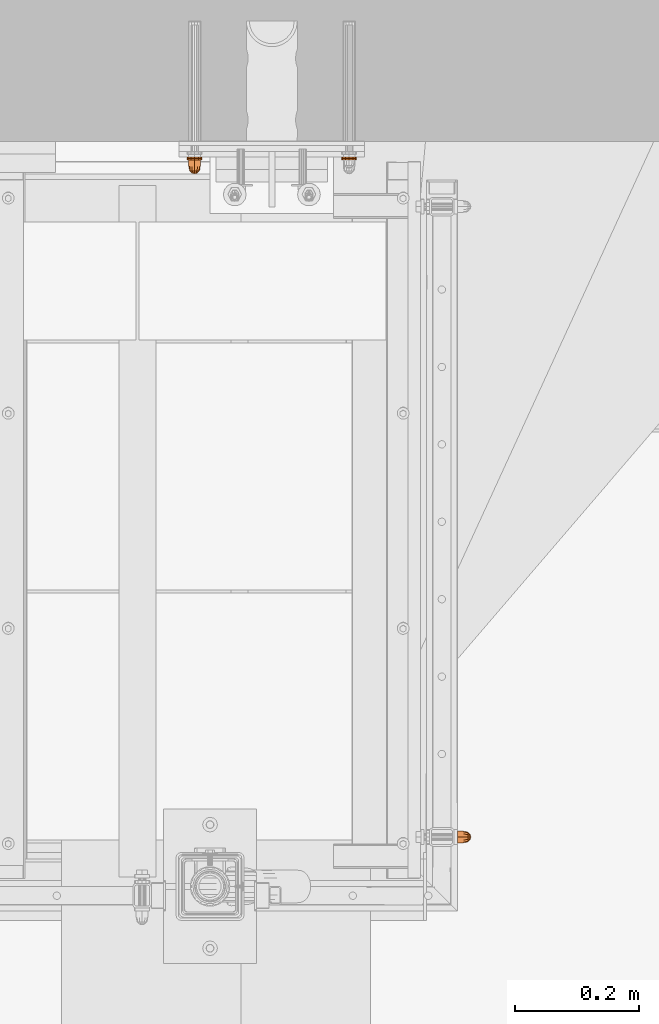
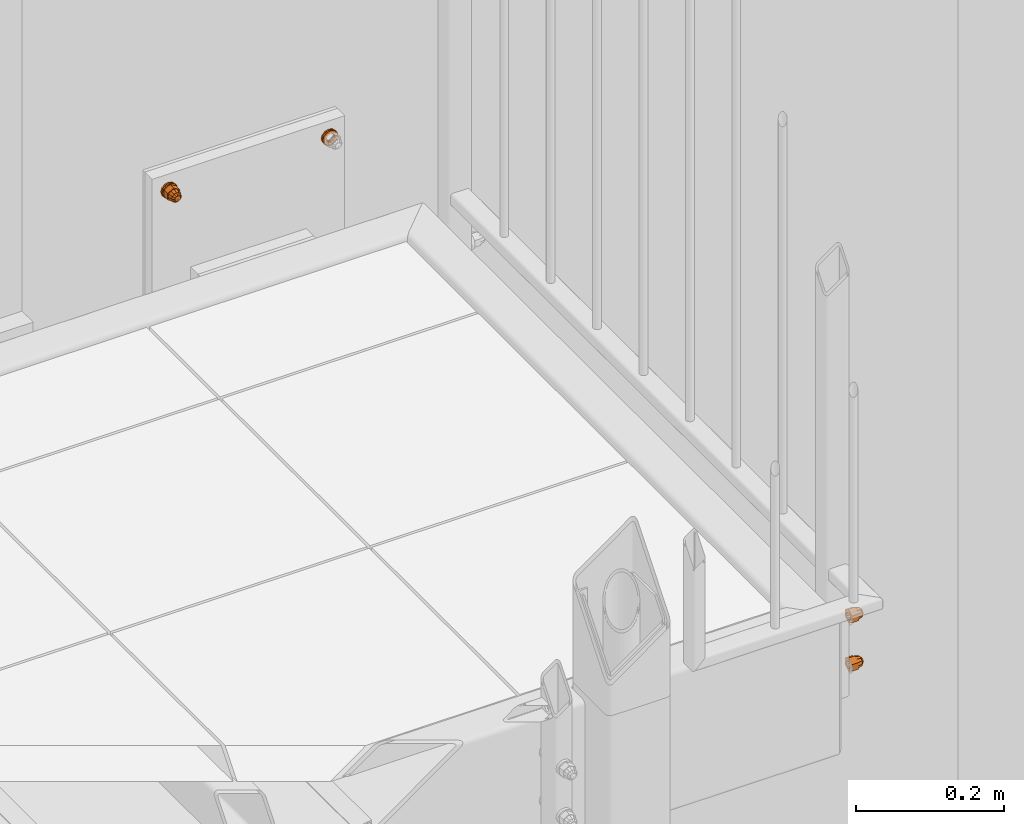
# One storey, part 158 of 162: 7 proxies.
"""IFC2X3 building model written with IfcOpenShell, lengths in millimetres."""

from ifc_helpers import new_model, entity, si_unit, converted_unit, origin_with_axes, place, context, project, spatial, faceted_brep, material, element, save


model = new_model("IFC2X3")

# Units and contexts
model_context = context("Model", 3, precision=1e-09, world=origin_with_axes())
ifc_project = project(units=[si_unit("LENGTHUNIT", "METRE", prefix="MILLI"), si_unit("AREAUNIT", "SQUARE_METRE"), si_unit("VOLUMEUNIT", "CUBIC_METRE"), converted_unit("PLANEANGLEUNIT", "DEGREE", entity("IfcPlaneAngleMeasure", 0.01745329), si_unit("PLANEANGLEUNIT", "RADIAN"), dimensions=[0, 0, 0, 0, 0, 0, 0])], contexts=[model_context])

# Site, building, storey
site_placement = place(None, origin_with_axes())
site = spatial("IfcSite", under=ifc_project, at=site_placement, Name="Hermannstra?e 1a, 60318 Frankfurt", CompositionType="ELEMENT")
building_placement = place(site_placement, origin_with_axes())
building = spatial("IfcBuilding", under=site, at=building_placement, Name="Struktur 1", CompositionType="ELEMENT")
storey_placement = place(building_placement, origin_with_axes())
storey = spatial("IfcBuildingStorey", under=building, at=storey_placement, Name="Default Storey", CompositionType="ELEMENT", Elevation=0.0)

# Proxies
ifc_material_1 = material(Name="Kein")
proxy_1_placement = place(None, origin_with_axes())
element("IfcBuildingElementProxy", 1, at=proxy_1_placement, inside=storey, material=ifc_material_1, ObjectType="-", context=model_context, shape_type="Brep", body=[
    faceted_brep([(5873.30936482, 1604.609373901, 3895.0), (5883.30936482, 1604.609373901, 3895.0), (5883.30936482, 1605.413221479, 3892.0), (5873.30936482, 1605.413221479, 3892.0), (5883.30936482, 1607.609373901, 3889.803847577), (5873.30936482, 1607.609373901, 3889.803847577), (5873.30936482, 1605.413221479, 3898.0), (5883.30936482, 1605.413221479, 3898.0), (5873.30936482, 1601.129504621, 3900.473205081), (5873.30936482, 1610.609373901, 3905.946410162), (5873.30936482, 1620.089243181, 3900.473205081), (5873.30936482, 1620.089243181, 3889.526794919), (5873.30936482, 1610.609373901, 3884.053589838), (5873.30936482, 1601.129504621, 3889.526794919), (5873.30936482, 1607.609373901, 3900.196152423), (5873.30936482, 1610.609373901, 3889.0), (5873.30936482, 1613.609373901, 3889.803847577), (5873.30936482, 1615.805526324, 3892.0), (5873.30936482, 1616.609373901, 3895.0), (5873.30936482, 1615.805526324, 3898.0), (5873.30936482, 1613.609373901, 3900.196152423), (5873.30936482, 1610.609373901, 3901.0), (5883.30936482, 1610.609373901, 3905.946410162), (5883.30936482, 1601.129504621, 3900.473205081), (5883.30936482, 1601.129504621, 3889.526794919), (5883.30936482, 1610.609373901, 3884.053589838), (5883.30936482, 1620.089243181, 3889.526794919), (5883.30936482, 1620.089243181, 3900.473205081), (5883.30936482, 1607.609373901, 3900.196152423), (5883.30936482, 1610.609373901, 3901.0), (5883.30936482, 1613.609373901, 3900.196152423), (5883.30936482, 1615.805526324, 3898.0), (5883.30936482, 1616.609373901, 3895.0), (5883.30936482, 1615.805526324, 3892.0), (5883.30936482, 1613.609373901, 3889.803847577), (5883.30936482, 1610.609373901, 3889.0)], [[[0, 1, 2, 3]], [[3, 2, 4, 5]], [[1, 0, 6, 7]], [[8, 9, 10, 11, 12, 13], [14, 6, 0, 3, 5, 15, 16, 17, 18, 19, 20, 21]], [[22, 23, 24, 25, 26, 27], [1, 7, 28, 29, 30, 31, 32, 33, 34, 35, 4, 2]], [[7, 6, 14, 28]], [[24, 23, 8, 13]], [[5, 4, 35, 15]], [[13, 12, 25, 24]], [[28, 14, 21, 29]], [[23, 22, 9, 8]], [[15, 35, 34, 16]], [[12, 11, 26, 25]], [[29, 21, 20, 30]], [[22, 27, 10, 9]], [[16, 34, 33, 17]], [[27, 26, 11, 10]], [[30, 20, 19, 31]], [[17, 33, 32, 18]], [[31, 19, 18, 32]]]),
    faceted_brep([(5883.30936482, 1610.609373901, 3904.0), (5886.30936482, 1610.609373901, 3904.0), (5886.30936482, 1615.109373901, 3902.794228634), (5883.30936482, 1615.109373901, 3902.794228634), (5883.30936482, 1606.109373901, 3902.794228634), (5886.30936482, 1606.109373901, 3902.794228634), (5886.30936482, 1602.815145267, 3890.5), (5886.30936482, 1606.109373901, 3887.205771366), (5886.30936482, 1610.609373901, 3886.0), (5886.30936482, 1615.109373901, 3887.205771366), (5886.30936482, 1618.403602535, 3890.5), (5886.30936482, 1619.609373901, 3895.0), (5886.30936482, 1618.403602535, 3899.5), (5886.30936482, 1602.815145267, 3899.5), (5886.30936482, 1601.609373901, 3895.0), (5883.30936482, 1618.403602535, 3890.5), (5883.30936482, 1615.109373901, 3887.205771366), (5883.30936482, 1610.609373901, 3886.0), (5883.30936482, 1606.109373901, 3887.205771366), (5883.30936482, 1602.815145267, 3890.5), (5883.30936482, 1601.609373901, 3895.0), (5883.30936482, 1602.815145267, 3899.5), (5883.30936482, 1618.403602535, 3899.5), (5883.30936482, 1619.609373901, 3895.0)], [[[0, 1, 2, 3]], [[1, 0, 4, 5]], [[6, 7, 8, 9, 10, 11, 12, 2, 1, 5, 13, 14]], [[15, 16, 17, 18, 19, 20, 21, 4, 0, 3, 22, 23]], [[3, 2, 12, 22]], [[5, 4, 21, 13]], [[22, 12, 11, 23]], [[13, 21, 20, 14]], [[7, 18, 17, 8]], [[19, 6, 14, 20]], [[18, 7, 6, 19]], [[23, 11, 10, 15]], [[8, 17, 16, 9]], [[15, 10, 9, 16]]]),
    faceted_brep([(5886.30936482, 1602.815145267, 3899.5), (5890.80936482, 1603.859373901, 3898.897114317), (5890.80936482, 1606.712259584, 3901.75), (5886.30936482, 1606.109373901, 3902.794228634), (5886.30936482, 1618.403602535, 3890.5), (5886.30936482, 1615.109373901, 3887.205771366), (5886.30936482, 1610.609373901, 3886.0), (5886.30936482, 1606.109373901, 3887.205771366), (5886.30936482, 1602.815145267, 3890.5), (5886.30936482, 1601.609373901, 3895.0), (5886.30936482, 1610.609373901, 3904.0), (5886.30936482, 1615.109373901, 3902.794228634), (5886.30936482, 1618.403602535, 3899.5), (5886.30936482, 1619.609373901, 3895.0), (5890.80936482, 1610.609373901, 3902.794228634), (5890.80936482, 1602.815145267, 3895.0), (5894.103593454, 1606.109373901, 3895.0), (5894.103593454, 1606.712259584, 3897.25), (5890.80936482, 1614.506488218, 3901.75), (5894.103593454, 1608.359373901, 3898.897114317), (5890.80936482, 1603.859373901, 3891.102885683), (5894.103593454, 1606.712259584, 3892.75), (5894.103593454, 1610.609373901, 3899.5), (5895.30936482, 1610.609373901, 3895.0), (5890.80936482, 1606.712259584, 3888.25), (5894.103593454, 1608.359373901, 3891.102885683), (5890.80936482, 1610.609373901, 3887.205771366), (5890.80936482, 1617.359373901, 3898.897114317), (5894.103593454, 1612.859373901, 3898.897114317), (5894.103593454, 1610.609373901, 3890.5), (5890.80936482, 1614.506488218, 3888.25), (5894.103593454, 1612.859373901, 3891.102885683), (5890.80936482, 1618.403602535, 3895.0), (5894.103593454, 1614.506488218, 3897.25), (5890.80936482, 1617.359373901, 3891.102885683), (5894.103593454, 1614.506488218, 3892.75), (5894.103593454, 1615.109373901, 3895.0)], [[[0, 1, 2, 3]], [[4, 5, 6, 7, 8, 9, 0, 3, 10, 11, 12, 13]], [[3, 2, 14, 10]], [[15, 16, 17, 1]], [[1, 0, 9, 15]], [[10, 14, 18, 11]], [[1, 17, 19, 2]], [[16, 15, 20, 21]], [[2, 19, 22, 14]], [[23, 17, 16]], [[24, 25, 21, 20]], [[23, 16, 21]], [[24, 7, 6, 26]], [[20, 8, 7, 24]], [[15, 9, 8, 20]], [[11, 18, 27, 12]], [[14, 22, 28, 18]], [[23, 19, 17]], [[26, 29, 25, 24]], [[23, 21, 25]], [[23, 22, 19]], [[26, 6, 5, 30]], [[29, 26, 30, 31]], [[23, 25, 29]], [[12, 27, 32, 13]], [[18, 28, 33, 27]], [[23, 28, 22]], [[23, 29, 31]], [[23, 33, 28]], [[30, 5, 4, 34]], [[31, 30, 34, 35]], [[23, 31, 35]], [[13, 32, 34, 4]], [[27, 33, 36, 32]], [[23, 36, 33]], [[23, 35, 36]], [[35, 34, 32, 36]]]),
])
proxy_2_placement = place(None, origin_with_axes())
element("IfcBuildingElementProxy", 2, at=proxy_2_placement, inside=storey, material=ifc_material_1, ObjectType="-", context=model_context, shape_type="Brep", body=[
    faceted_brep([(5873.30936482, 1604.609373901, 3815.0), (5883.30936482, 1604.609373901, 3815.0), (5883.30936482, 1605.413221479, 3812.0), (5873.30936482, 1605.413221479, 3812.0), (5883.30936482, 1607.609373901, 3809.803847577), (5873.30936482, 1607.609373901, 3809.803847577), (5873.30936482, 1605.413221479, 3818.0), (5883.30936482, 1605.413221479, 3818.0), (5873.30936482, 1601.129504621, 3820.473205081), (5873.30936482, 1610.609373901, 3825.946410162), (5873.30936482, 1620.089243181, 3820.473205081), (5873.30936482, 1620.089243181, 3809.526794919), (5873.30936482, 1610.609373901, 3804.053589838), (5873.30936482, 1601.129504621, 3809.526794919), (5873.30936482, 1607.609373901, 3820.196152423), (5873.30936482, 1610.609373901, 3809.0), (5873.30936482, 1613.609373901, 3809.803847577), (5873.30936482, 1615.805526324, 3812.0), (5873.30936482, 1616.609373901, 3815.0), (5873.30936482, 1615.805526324, 3818.0), (5873.30936482, 1613.609373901, 3820.196152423), (5873.30936482, 1610.609373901, 3821.0), (5883.30936482, 1610.609373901, 3825.946410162), (5883.30936482, 1601.129504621, 3820.473205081), (5883.30936482, 1601.129504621, 3809.526794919), (5883.30936482, 1610.609373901, 3804.053589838), (5883.30936482, 1620.089243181, 3809.526794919), (5883.30936482, 1620.089243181, 3820.473205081), (5883.30936482, 1607.609373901, 3820.196152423), (5883.30936482, 1610.609373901, 3821.0), (5883.30936482, 1613.609373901, 3820.196152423), (5883.30936482, 1615.805526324, 3818.0), (5883.30936482, 1616.609373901, 3815.0), (5883.30936482, 1615.805526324, 3812.0), (5883.30936482, 1613.609373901, 3809.803847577), (5883.30936482, 1610.609373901, 3809.0)], [[[0, 1, 2, 3]], [[3, 2, 4, 5]], [[1, 0, 6, 7]], [[8, 9, 10, 11, 12, 13], [14, 6, 0, 3, 5, 15, 16, 17, 18, 19, 20, 21]], [[22, 23, 24, 25, 26, 27], [1, 7, 28, 29, 30, 31, 32, 33, 34, 35, 4, 2]], [[7, 6, 14, 28]], [[24, 23, 8, 13]], [[5, 4, 35, 15]], [[13, 12, 25, 24]], [[28, 14, 21, 29]], [[23, 22, 9, 8]], [[15, 35, 34, 16]], [[12, 11, 26, 25]], [[29, 21, 20, 30]], [[22, 27, 10, 9]], [[16, 34, 33, 17]], [[27, 26, 11, 10]], [[30, 20, 19, 31]], [[17, 33, 32, 18]], [[31, 19, 18, 32]]]),
    faceted_brep([(5883.30936482, 1610.609373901, 3824.0), (5886.30936482, 1610.609373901, 3824.0), (5886.30936482, 1615.109373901, 3822.794228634), (5883.30936482, 1615.109373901, 3822.794228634), (5883.30936482, 1606.109373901, 3822.794228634), (5886.30936482, 1606.109373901, 3822.794228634), (5886.30936482, 1602.815145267, 3810.5), (5886.30936482, 1606.109373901, 3807.205771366), (5886.30936482, 1610.609373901, 3806.0), (5886.30936482, 1615.109373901, 3807.205771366), (5886.30936482, 1618.403602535, 3810.5), (5886.30936482, 1619.609373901, 3815.0), (5886.30936482, 1618.403602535, 3819.5), (5886.30936482, 1602.815145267, 3819.5), (5886.30936482, 1601.609373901, 3815.0), (5883.30936482, 1618.403602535, 3810.5), (5883.30936482, 1615.109373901, 3807.205771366), (5883.30936482, 1610.609373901, 3806.0), (5883.30936482, 1606.109373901, 3807.205771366), (5883.30936482, 1602.815145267, 3810.5), (5883.30936482, 1601.609373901, 3815.0), (5883.30936482, 1602.815145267, 3819.5), (5883.30936482, 1618.403602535, 3819.5), (5883.30936482, 1619.609373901, 3815.0)], [[[0, 1, 2, 3]], [[1, 0, 4, 5]], [[6, 7, 8, 9, 10, 11, 12, 2, 1, 5, 13, 14]], [[15, 16, 17, 18, 19, 20, 21, 4, 0, 3, 22, 23]], [[3, 2, 12, 22]], [[5, 4, 21, 13]], [[22, 12, 11, 23]], [[13, 21, 20, 14]], [[7, 18, 17, 8]], [[19, 6, 14, 20]], [[18, 7, 6, 19]], [[23, 11, 10, 15]], [[8, 17, 16, 9]], [[15, 10, 9, 16]]]),
    faceted_brep([(5886.30936482, 1602.815145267, 3819.5), (5890.80936482, 1603.859373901, 3818.897114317), (5890.80936482, 1606.712259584, 3821.75), (5886.30936482, 1606.109373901, 3822.794228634), (5886.30936482, 1618.403602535, 3810.5), (5886.30936482, 1615.109373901, 3807.205771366), (5886.30936482, 1610.609373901, 3806.0), (5886.30936482, 1606.109373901, 3807.205771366), (5886.30936482, 1602.815145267, 3810.5), (5886.30936482, 1601.609373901, 3815.0), (5886.30936482, 1610.609373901, 3824.0), (5886.30936482, 1615.109373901, 3822.794228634), (5886.30936482, 1618.403602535, 3819.5), (5886.30936482, 1619.609373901, 3815.0), (5890.80936482, 1610.609373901, 3822.794228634), (5890.80936482, 1602.815145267, 3815.0), (5894.103593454, 1606.109373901, 3815.0), (5894.103593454, 1606.712259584, 3817.25), (5890.80936482, 1614.506488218, 3821.75), (5894.103593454, 1608.359373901, 3818.897114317), (5890.80936482, 1603.859373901, 3811.102885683), (5894.103593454, 1606.712259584, 3812.75), (5894.103593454, 1610.609373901, 3819.5), (5895.30936482, 1610.609373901, 3815.0), (5890.80936482, 1606.712259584, 3808.25), (5894.103593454, 1608.359373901, 3811.102885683), (5890.80936482, 1610.609373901, 3807.205771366), (5890.80936482, 1617.359373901, 3818.897114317), (5894.103593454, 1612.859373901, 3818.897114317), (5894.103593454, 1610.609373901, 3810.5), (5890.80936482, 1614.506488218, 3808.25), (5894.103593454, 1612.859373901, 3811.102885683), (5890.80936482, 1618.403602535, 3815.0), (5894.103593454, 1614.506488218, 3817.25), (5890.80936482, 1617.359373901, 3811.102885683), (5894.103593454, 1614.506488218, 3812.75), (5894.103593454, 1615.109373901, 3815.0)], [[[0, 1, 2, 3]], [[4, 5, 6, 7, 8, 9, 0, 3, 10, 11, 12, 13]], [[3, 2, 14, 10]], [[15, 16, 17, 1]], [[1, 0, 9, 15]], [[10, 14, 18, 11]], [[1, 17, 19, 2]], [[16, 15, 20, 21]], [[2, 19, 22, 14]], [[23, 17, 16]], [[24, 25, 21, 20]], [[23, 16, 21]], [[24, 7, 6, 26]], [[20, 8, 7, 24]], [[15, 9, 8, 20]], [[11, 18, 27, 12]], [[14, 22, 28, 18]], [[23, 19, 17]], [[26, 29, 25, 24]], [[23, 21, 25]], [[23, 22, 19]], [[26, 6, 5, 30]], [[29, 26, 30, 31]], [[23, 25, 29]], [[12, 27, 32, 13]], [[18, 28, 33, 27]], [[23, 28, 22]], [[23, 29, 31]], [[23, 33, 28]], [[30, 5, 4, 34]], [[31, 30, 34, 35]], [[23, 31, 35]], [[13, 32, 34, 4]], [[27, 33, 36, 32]], [[23, 36, 33]], [[23, 35, 36]], [[35, 34, 32, 36]]]),
])
ifc_material_2 = material(Name="A4")
proxy_3_placement = place(None, origin_with_axes())
element("IfcBuildingElementProxy", 3, at=proxy_3_placement, inside=storey, material=ifc_material_2, ObjectType="-", context=model_context, shape_type="Brep", body=[
    faceted_brep([(5687.917767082, 2705.610081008, 4074.0), (5687.917767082, 2708.110081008, 4074.0), (5692.310071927, 2708.110081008, 4069.607695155), (5692.310071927, 2705.610081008, 4069.607695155), (5698.310071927, 2705.610081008, 4068.0), (5704.310071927, 2705.610081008, 4069.607695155), (5708.702376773, 2705.610081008, 4074.0), (5710.310071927, 2705.610081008, 4080.0), (5708.702376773, 2705.610081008, 4086.0), (5704.310071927, 2705.610081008, 4090.392304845), (5698.310071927, 2705.610081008, 4092.0), (5692.310071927, 2705.610081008, 4090.392304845), (5687.917767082, 2705.610081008, 4086.0), (5686.310071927, 2705.610081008, 4080.0), (5701.560071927, 2705.610081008, 4074.370834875), (5698.310071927, 2705.610081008, 4073.5), (5695.060071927, 2705.610081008, 4074.370834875), (5692.680906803, 2705.610081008, 4076.75), (5691.810071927, 2705.610081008, 4080.0), (5692.680906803, 2705.610081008, 4083.25), (5695.060071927, 2705.610081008, 4085.629165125), (5698.310071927, 2705.610081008, 4086.5), (5701.560071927, 2705.610081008, 4085.629165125), (5703.939237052, 2705.610081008, 4083.25), (5704.810071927, 2705.610081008, 4080.0), (5703.939237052, 2705.610081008, 4076.75), (5686.310071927, 2708.110081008, 4080.0), (5687.917767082, 2708.110081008, 4086.0), (5692.310071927, 2708.110081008, 4090.392304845), (5698.310071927, 2708.110081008, 4092.0), (5704.310071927, 2708.110081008, 4090.392304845), (5708.702376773, 2708.110081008, 4086.0), (5710.310071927, 2708.110081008, 4080.0), (5708.702376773, 2708.110081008, 4074.0), (5704.310071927, 2708.110081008, 4069.607695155), (5698.310071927, 2708.110081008, 4068.0), (5691.810071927, 2708.110081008, 4080.0), (5692.680906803, 2708.110081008, 4076.75), (5695.060071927, 2708.110081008, 4074.370834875), (5698.310071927, 2708.110081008, 4073.5), (5701.560071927, 2708.110081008, 4074.370834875), (5703.939237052, 2708.110081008, 4076.75), (5704.810071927, 2708.110081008, 4080.0), (5703.939237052, 2708.110081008, 4083.25), (5701.560071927, 2708.110081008, 4085.629165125), (5698.310071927, 2708.110081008, 4086.5), (5695.060071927, 2708.110081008, 4085.629165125), (5692.680906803, 2708.110081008, 4083.25)], [[[0, 1, 2, 3]], [[3, 4, 5, 6, 7, 8, 9, 10, 11, 12, 13, 0], [14, 15, 16, 17, 18, 19, 20, 21, 22, 23, 24, 25]], [[1, 26, 27, 28, 29, 30, 31, 32, 33, 34, 35, 2], [36, 37, 38, 39, 40, 41, 42, 43, 44, 45, 46, 47]], [[37, 17, 16, 38]], [[1, 0, 13, 26]], [[17, 37, 36, 18]], [[38, 16, 15, 39]], [[3, 2, 35, 4]], [[26, 13, 12, 27]], [[18, 36, 47, 19]], [[39, 15, 14, 40]], [[4, 35, 34, 5]], [[27, 12, 11, 28]], [[19, 47, 46, 20]], [[40, 14, 25, 41]], [[5, 34, 33, 6]], [[24, 42, 41, 25]], [[28, 11, 10, 29]], [[20, 46, 45, 21]], [[23, 43, 42, 24]], [[6, 33, 32, 7]], [[44, 22, 21, 45]], [[43, 23, 22, 44]], [[29, 10, 9, 30]], [[7, 32, 31, 8]], [[30, 9, 8, 31]]]),
])
ifc_material_3 = material(Name="Kunststoff")
proxy_4_placement = place(None, origin_with_axes())
element("IfcBuildingElementProxy", 4, at=proxy_4_placement, inside=storey, material=ifc_material_3, ObjectType="-", context=model_context, shape_type="Brep", body=[
    faceted_brep([(5708.702376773, 2708.110081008, 4074.0), (5708.702376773, 2710.610081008, 4074.0), (5710.310071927, 2710.610081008, 4080.0), (5710.310071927, 2708.110081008, 4080.0), (5704.310071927, 2710.610081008, 4069.607695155), (5698.310071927, 2710.610081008, 4068.0), (5692.310071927, 2710.610081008, 4069.607695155), (5687.917767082, 2710.610081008, 4074.0), (5686.310071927, 2710.610081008, 4080.0), (5687.917767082, 2710.610081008, 4086.0), (5692.310071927, 2710.610081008, 4090.392304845), (5698.310071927, 2710.610081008, 4092.0), (5704.310071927, 2710.610081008, 4090.392304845), (5708.702376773, 2710.610081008, 4086.0), (5701.560071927, 2710.610081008, 4074.370834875), (5703.939237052, 2710.610081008, 4076.75), (5704.810071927, 2710.610081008, 4080.0), (5703.939237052, 2710.610081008, 4083.25), (5701.560071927, 2710.610081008, 4085.629165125), (5698.310071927, 2710.610081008, 4086.5), (5695.060071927, 2710.610081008, 4085.629165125), (5692.680906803, 2710.610081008, 4083.25), (5691.810071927, 2710.610081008, 4080.0), (5692.680906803, 2710.610081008, 4076.75), (5695.060071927, 2710.610081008, 4074.370834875), (5698.310071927, 2710.610081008, 4073.5), (5704.810071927, 2708.110081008, 4080.0), (5703.939237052, 2708.110081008, 4076.75), (5704.310071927, 2708.110081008, 4069.607695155), (5708.702376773, 2708.110081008, 4086.0), (5704.310071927, 2708.110081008, 4090.392304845), (5698.310071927, 2708.110081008, 4092.0), (5692.310071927, 2708.110081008, 4090.392304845), (5687.917767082, 2708.110081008, 4086.0), (5686.310071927, 2708.110081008, 4080.0), (5687.917767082, 2708.110081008, 4074.0), (5692.310071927, 2708.110081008, 4069.607695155), (5698.310071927, 2708.110081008, 4068.0), (5701.560071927, 2708.110081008, 4074.370834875), (5698.310071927, 2708.110081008, 4073.5), (5695.060071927, 2708.110081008, 4074.370834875), (5692.680906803, 2708.110081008, 4076.75), (5691.810071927, 2708.110081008, 4080.0), (5692.680906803, 2708.110081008, 4083.25), (5695.060071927, 2708.110081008, 4085.629165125), (5698.310071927, 2708.110081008, 4086.5), (5701.560071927, 2708.110081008, 4085.629165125), (5703.939237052, 2708.110081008, 4083.25)], [[[0, 1, 2, 3]], [[1, 4, 5, 6, 7, 8, 9, 10, 11, 12, 13, 2], [14, 15, 16, 17, 18, 19, 20, 21, 22, 23, 24, 25]], [[26, 16, 15, 27]], [[28, 0, 3, 29, 30, 31, 32, 33, 34, 35, 36, 37], [26, 27, 38, 39, 40, 41, 42, 43, 44, 45, 46, 47]], [[1, 0, 28, 4]], [[16, 26, 47, 17]], [[3, 2, 13, 29]], [[27, 15, 14, 38]], [[4, 28, 37, 5]], [[17, 47, 46, 18]], [[29, 13, 12, 30]], [[38, 14, 25, 39]], [[18, 46, 45, 19]], [[5, 37, 36, 6]], [[39, 25, 24, 40]], [[30, 12, 11, 31]], [[19, 45, 44, 20]], [[6, 36, 35, 7]], [[40, 24, 23, 41]], [[31, 11, 10, 32]], [[20, 44, 43, 21]], [[7, 35, 34, 8]], [[41, 23, 22, 42]], [[32, 10, 9, 33]], [[21, 43, 42, 22]], [[8, 34, 33, 9]]]),
])
proxy_5_placement = place(None, origin_with_axes())
element("IfcBuildingElementProxy", 5, at=proxy_5_placement, inside=storey, material=ifc_material_2, ObjectType="-", context=model_context, shape_type="Brep", body=[
    faceted_brep([(5454.310071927, 2705.610081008, 4080.0), (5454.310071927, 2695.610081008, 4080.0), (5453.50622435, 2695.610081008, 4083.0), (5453.50622435, 2705.610081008, 4083.0), (5451.310071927, 2695.610081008, 4085.196152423), (5451.310071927, 2705.610081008, 4085.196152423), (5453.50622435, 2705.610081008, 4077.0), (5453.50622435, 2695.610081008, 4077.0), (5457.789941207, 2705.610081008, 4074.526794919), (5448.310071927, 2705.610081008, 4069.053589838), (5438.830202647, 2705.610081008, 4074.526794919), (5438.830202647, 2705.610081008, 4085.473205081), (5448.310071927, 2705.610081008, 4090.946410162), (5457.789941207, 2705.610081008, 4085.473205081), (5451.310071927, 2705.610081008, 4074.803847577), (5448.310071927, 2705.610081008, 4086.0), (5445.310071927, 2705.610081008, 4085.196152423), (5443.113919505, 2705.610081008, 4083.0), (5442.310071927, 2705.610081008, 4080.0), (5443.113919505, 2705.610081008, 4077.0), (5445.310071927, 2705.610081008, 4074.803847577), (5448.310071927, 2705.610081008, 4074.0), (5448.310071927, 2695.610081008, 4069.053589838), (5457.789941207, 2695.610081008, 4074.526794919), (5457.789941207, 2695.610081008, 4085.473205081), (5448.310071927, 2695.610081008, 4090.946410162), (5438.830202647, 2695.610081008, 4085.473205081), (5438.830202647, 2695.610081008, 4074.526794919), (5451.310071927, 2695.610081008, 4074.803847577), (5448.310071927, 2695.610081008, 4074.0), (5445.310071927, 2695.610081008, 4074.803847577), (5443.113919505, 2695.610081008, 4077.0), (5442.310071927, 2695.610081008, 4080.0), (5443.113919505, 2695.610081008, 4083.0), (5445.310071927, 2695.610081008, 4085.196152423), (5448.310071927, 2695.610081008, 4086.0)], [[[0, 1, 2, 3]], [[3, 2, 4, 5]], [[1, 0, 6, 7]], [[8, 9, 10, 11, 12, 13], [14, 6, 0, 3, 5, 15, 16, 17, 18, 19, 20, 21]], [[22, 23, 24, 25, 26, 27], [1, 7, 28, 29, 30, 31, 32, 33, 34, 35, 4, 2]], [[7, 6, 14, 28]], [[24, 23, 8, 13]], [[5, 4, 35, 15]], [[13, 12, 25, 24]], [[28, 14, 21, 29]], [[23, 22, 9, 8]], [[15, 35, 34, 16]], [[12, 11, 26, 25]], [[29, 21, 20, 30]], [[22, 27, 10, 9]], [[16, 34, 33, 17]], [[27, 26, 11, 10]], [[30, 20, 19, 31]], [[17, 33, 32, 18]], [[31, 19, 18, 32]]]),
    faceted_brep([(5448.310071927, 2695.610081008, 4071.0), (5448.310071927, 2692.610081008, 4071.0), (5443.810071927, 2692.610081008, 4072.205771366), (5443.810071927, 2695.610081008, 4072.205771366), (5452.810071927, 2695.610081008, 4072.205771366), (5452.810071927, 2692.610081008, 4072.205771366), (5456.104300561, 2692.610081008, 4084.5), (5452.810071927, 2692.610081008, 4087.794228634), (5448.310071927, 2692.610081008, 4089.0), (5443.810071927, 2692.610081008, 4087.794228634), (5440.515843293, 2692.610081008, 4084.5), (5439.310071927, 2692.610081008, 4080.0), (5440.515843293, 2692.610081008, 4075.5), (5456.104300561, 2692.610081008, 4075.5), (5457.310071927, 2692.610081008, 4080.0), (5440.515843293, 2695.610081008, 4084.5), (5443.810071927, 2695.610081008, 4087.794228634), (5448.310071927, 2695.610081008, 4089.0), (5452.810071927, 2695.610081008, 4087.794228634), (5456.104300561, 2695.610081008, 4084.5), (5457.310071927, 2695.610081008, 4080.0), (5456.104300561, 2695.610081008, 4075.5), (5440.515843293, 2695.610081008, 4075.5), (5439.310071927, 2695.610081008, 4080.0)], [[[0, 1, 2, 3]], [[1, 0, 4, 5]], [[6, 7, 8, 9, 10, 11, 12, 2, 1, 5, 13, 14]], [[15, 16, 17, 18, 19, 20, 21, 4, 0, 3, 22, 23]], [[3, 2, 12, 22]], [[5, 4, 21, 13]], [[22, 12, 11, 23]], [[13, 21, 20, 14]], [[7, 18, 17, 8]], [[19, 6, 14, 20]], [[18, 7, 6, 19]], [[23, 11, 10, 15]], [[8, 17, 16, 9]], [[15, 10, 9, 16]]]),
    faceted_brep([(5456.104300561, 2692.610081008, 4075.5), (5455.060071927, 2688.110081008, 4076.102885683), (5452.207186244, 2688.110081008, 4073.25), (5452.810071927, 2692.610081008, 4072.205771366), (5440.515843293, 2692.610081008, 4084.5), (5443.810071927, 2692.610081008, 4087.794228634), (5448.310071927, 2692.610081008, 4089.0), (5452.810071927, 2692.610081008, 4087.794228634), (5456.104300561, 2692.610081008, 4084.5), (5457.310071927, 2692.610081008, 4080.0), (5448.310071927, 2692.610081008, 4071.0), (5443.810071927, 2692.610081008, 4072.205771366), (5440.515843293, 2692.610081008, 4075.5), (5439.310071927, 2692.610081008, 4080.0), (5448.310071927, 2688.110081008, 4072.205771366), (5456.104300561, 2688.110081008, 4080.0), (5452.810071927, 2684.815852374, 4080.0), (5452.207186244, 2684.815852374, 4077.75), (5444.41295761, 2688.110081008, 4073.25), (5450.560071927, 2684.815852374, 4076.102885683), (5455.060071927, 2688.110081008, 4083.897114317), (5452.207186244, 2684.815852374, 4082.25), (5448.310071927, 2684.815852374, 4075.5), (5448.310071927, 2683.610081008, 4080.0), (5452.207186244, 2688.110081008, 4086.75), (5450.560071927, 2684.815852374, 4083.897114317), (5448.310071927, 2688.110081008, 4087.794228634), (5441.560071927, 2688.110081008, 4076.102885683), (5446.060071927, 2684.815852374, 4076.102885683), (5448.310071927, 2684.815852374, 4084.5), (5444.41295761, 2688.110081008, 4086.75), (5446.060071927, 2684.815852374, 4083.897114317), (5440.515843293, 2688.110081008, 4080.0), (5444.41295761, 2684.815852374, 4077.75), (5441.560071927, 2688.110081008, 4083.897114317), (5444.41295761, 2684.815852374, 4082.25), (5443.810071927, 2684.815852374, 4080.0)], [[[0, 1, 2, 3]], [[4, 5, 6, 7, 8, 9, 0, 3, 10, 11, 12, 13]], [[3, 2, 14, 10]], [[15, 16, 17, 1]], [[1, 0, 9, 15]], [[10, 14, 18, 11]], [[1, 17, 19, 2]], [[16, 15, 20, 21]], [[2, 19, 22, 14]], [[23, 17, 16]], [[24, 25, 21, 20]], [[23, 16, 21]], [[24, 7, 6, 26]], [[20, 8, 7, 24]], [[15, 9, 8, 20]], [[11, 18, 27, 12]], [[14, 22, 28, 18]], [[23, 19, 17]], [[26, 29, 25, 24]], [[23, 21, 25]], [[23, 22, 19]], [[26, 6, 5, 30]], [[29, 26, 30, 31]], [[23, 25, 29]], [[12, 27, 32, 13]], [[18, 28, 33, 27]], [[23, 28, 22]], [[23, 29, 31]], [[23, 33, 28]], [[30, 5, 4, 34]], [[31, 30, 34, 35]], [[23, 31, 35]], [[13, 32, 34, 4]], [[27, 33, 36, 32]], [[23, 36, 33]], [[23, 35, 36]], [[35, 34, 32, 36]]]),
])
proxy_6_placement = place(None, origin_with_axes())
element("IfcBuildingElementProxy", 6, at=proxy_6_placement, inside=storey, material=ifc_material_2, ObjectType="-", context=model_context, shape_type="Brep", body=[
    faceted_brep([(5437.917767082, 2705.610081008, 4074.0), (5437.917767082, 2708.110081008, 4074.0), (5442.310071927, 2708.110081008, 4069.607695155), (5442.310071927, 2705.610081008, 4069.607695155), (5448.310071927, 2705.610081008, 4068.0), (5454.310071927, 2705.610081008, 4069.607695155), (5458.702376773, 2705.610081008, 4074.0), (5460.310071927, 2705.610081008, 4080.0), (5458.702376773, 2705.610081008, 4086.0), (5454.310071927, 2705.610081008, 4090.392304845), (5448.310071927, 2705.610081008, 4092.0), (5442.310071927, 2705.610081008, 4090.392304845), (5437.917767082, 2705.610081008, 4086.0), (5436.310071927, 2705.610081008, 4080.0), (5451.560071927, 2705.610081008, 4074.370834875), (5448.310071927, 2705.610081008, 4073.5), (5445.060071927, 2705.610081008, 4074.370834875), (5442.680906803, 2705.610081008, 4076.75), (5441.810071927, 2705.610081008, 4080.0), (5442.680906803, 2705.610081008, 4083.25), (5445.060071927, 2705.610081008, 4085.629165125), (5448.310071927, 2705.610081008, 4086.5), (5451.560071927, 2705.610081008, 4085.629165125), (5453.939237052, 2705.610081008, 4083.25), (5454.810071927, 2705.610081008, 4080.0), (5453.939237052, 2705.610081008, 4076.75), (5436.310071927, 2708.110081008, 4080.0), (5437.917767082, 2708.110081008, 4086.0), (5442.310071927, 2708.110081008, 4090.392304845), (5448.310071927, 2708.110081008, 4092.0), (5454.310071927, 2708.110081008, 4090.392304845), (5458.702376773, 2708.110081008, 4086.0), (5460.310071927, 2708.110081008, 4080.0), (5458.702376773, 2708.110081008, 4074.0), (5454.310071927, 2708.110081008, 4069.607695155), (5448.310071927, 2708.110081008, 4068.0), (5441.810071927, 2708.110081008, 4080.0), (5442.680906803, 2708.110081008, 4076.75), (5445.060071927, 2708.110081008, 4074.370834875), (5448.310071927, 2708.110081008, 4073.5), (5451.560071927, 2708.110081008, 4074.370834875), (5453.939237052, 2708.110081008, 4076.75), (5454.810071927, 2708.110081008, 4080.0), (5453.939237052, 2708.110081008, 4083.25), (5451.560071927, 2708.110081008, 4085.629165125), (5448.310071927, 2708.110081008, 4086.5), (5445.060071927, 2708.110081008, 4085.629165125), (5442.680906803, 2708.110081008, 4083.25)], [[[0, 1, 2, 3]], [[3, 4, 5, 6, 7, 8, 9, 10, 11, 12, 13, 0], [14, 15, 16, 17, 18, 19, 20, 21, 22, 23, 24, 25]], [[1, 26, 27, 28, 29, 30, 31, 32, 33, 34, 35, 2], [36, 37, 38, 39, 40, 41, 42, 43, 44, 45, 46, 47]], [[37, 17, 16, 38]], [[1, 0, 13, 26]], [[17, 37, 36, 18]], [[38, 16, 15, 39]], [[3, 2, 35, 4]], [[26, 13, 12, 27]], [[18, 36, 47, 19]], [[39, 15, 14, 40]], [[4, 35, 34, 5]], [[27, 12, 11, 28]], [[19, 47, 46, 20]], [[40, 14, 25, 41]], [[5, 34, 33, 6]], [[24, 42, 41, 25]], [[28, 11, 10, 29]], [[20, 46, 45, 21]], [[23, 43, 42, 24]], [[6, 33, 32, 7]], [[44, 22, 21, 45]], [[43, 23, 22, 44]], [[29, 10, 9, 30]], [[7, 32, 31, 8]], [[30, 9, 8, 31]]]),
])
proxy_7_placement = place(None, origin_with_axes())
element("IfcBuildingElementProxy", 7, at=proxy_7_placement, inside=storey, material=ifc_material_3, ObjectType="-", context=model_context, shape_type="Brep", body=[
    faceted_brep([(5458.702376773, 2708.110081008, 4074.0), (5458.702376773, 2710.610081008, 4074.0), (5460.310071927, 2710.610081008, 4080.0), (5460.310071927, 2708.110081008, 4080.0), (5454.310071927, 2710.610081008, 4069.607695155), (5448.310071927, 2710.610081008, 4068.0), (5442.310071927, 2710.610081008, 4069.607695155), (5437.917767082, 2710.610081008, 4074.0), (5436.310071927, 2710.610081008, 4080.0), (5437.917767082, 2710.610081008, 4086.0), (5442.310071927, 2710.610081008, 4090.392304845), (5448.310071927, 2710.610081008, 4092.0), (5454.310071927, 2710.610081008, 4090.392304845), (5458.702376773, 2710.610081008, 4086.0), (5451.560071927, 2710.610081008, 4074.370834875), (5453.939237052, 2710.610081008, 4076.75), (5454.810071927, 2710.610081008, 4080.0), (5453.939237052, 2710.610081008, 4083.25), (5451.560071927, 2710.610081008, 4085.629165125), (5448.310071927, 2710.610081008, 4086.5), (5445.060071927, 2710.610081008, 4085.629165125), (5442.680906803, 2710.610081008, 4083.25), (5441.810071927, 2710.610081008, 4080.0), (5442.680906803, 2710.610081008, 4076.75), (5445.060071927, 2710.610081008, 4074.370834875), (5448.310071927, 2710.610081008, 4073.5), (5454.810071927, 2708.110081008, 4080.0), (5453.939237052, 2708.110081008, 4076.75), (5454.310071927, 2708.110081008, 4069.607695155), (5458.702376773, 2708.110081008, 4086.0), (5454.310071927, 2708.110081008, 4090.392304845), (5448.310071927, 2708.110081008, 4092.0), (5442.310071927, 2708.110081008, 4090.392304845), (5437.917767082, 2708.110081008, 4086.0), (5436.310071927, 2708.110081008, 4080.0), (5437.917767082, 2708.110081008, 4074.0), (5442.310071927, 2708.110081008, 4069.607695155), (5448.310071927, 2708.110081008, 4068.0), (5451.560071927, 2708.110081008, 4074.370834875), (5448.310071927, 2708.110081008, 4073.5), (5445.060071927, 2708.110081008, 4074.370834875), (5442.680906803, 2708.110081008, 4076.75), (5441.810071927, 2708.110081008, 4080.0), (5442.680906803, 2708.110081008, 4083.25), (5445.060071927, 2708.110081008, 4085.629165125), (5448.310071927, 2708.110081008, 4086.5), (5451.560071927, 2708.110081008, 4085.629165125), (5453.939237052, 2708.110081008, 4083.25)], [[[0, 1, 2, 3]], [[1, 4, 5, 6, 7, 8, 9, 10, 11, 12, 13, 2], [14, 15, 16, 17, 18, 19, 20, 21, 22, 23, 24, 25]], [[26, 16, 15, 27]], [[28, 0, 3, 29, 30, 31, 32, 33, 34, 35, 36, 37], [26, 27, 38, 39, 40, 41, 42, 43, 44, 45, 46, 47]], [[1, 0, 28, 4]], [[16, 26, 47, 17]], [[3, 2, 13, 29]], [[27, 15, 14, 38]], [[4, 28, 37, 5]], [[17, 47, 46, 18]], [[29, 13, 12, 30]], [[38, 14, 25, 39]], [[18, 46, 45, 19]], [[5, 37, 36, 6]], [[39, 25, 24, 40]], [[30, 12, 11, 31]], [[19, 45, 44, 20]], [[6, 36, 35, 7]], [[40, 24, 23, 41]], [[31, 11, 10, 32]], [[20, 44, 43, 21]], [[7, 35, 34, 8]], [[41, 23, 22, 42]], [[32, 10, 9, 33]], [[21, 43, 42, 22]], [[8, 34, 33, 9]]]),
])

save(model, "model.ifc")
